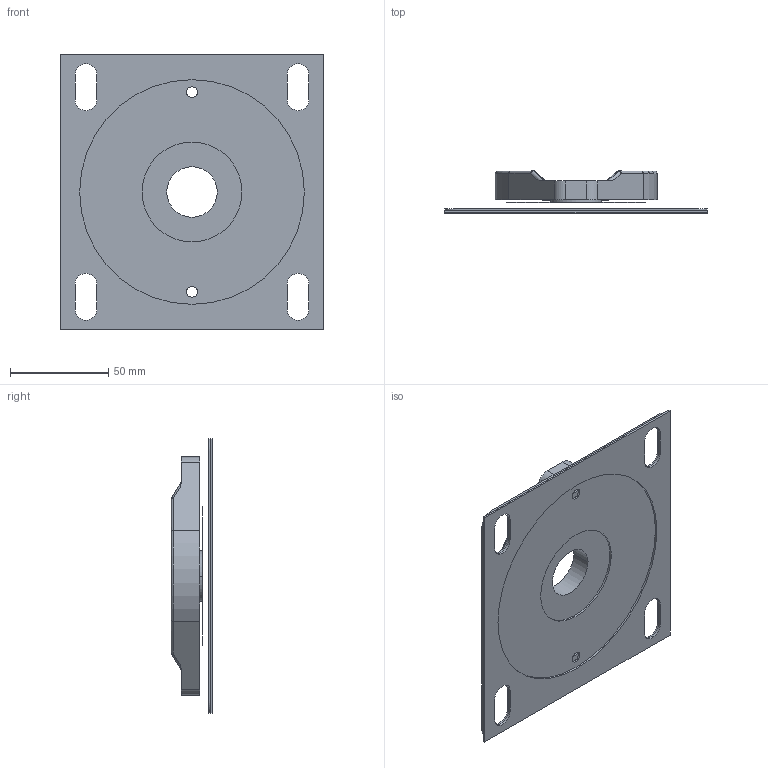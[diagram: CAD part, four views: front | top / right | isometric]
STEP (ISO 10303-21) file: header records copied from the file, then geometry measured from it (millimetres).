
FILE_DESCRIPTION (( 'STEP AP203' ), '1' );
FILE_NAME ('SLF-012P.STEP', '2014-10-29T19:28:10', ( '' ), ( '' ), 'SwSTEP 2.0', 'SolidWorks 2014', '' );
FILE_SCHEMA (( 'CONFIG_CONTROL_DESIGN' ));
Length unit declared in the file: inch
Products named in the file (1): SLF-012P
Bounding box: 133.35 x 21.19 x 139.7 mm (x, y, z)
Surface area: 68797.3 mm2 (no closed solid volume)
Topology: 0 solids, 4 shells, 153 faces, 403 edges, 254 vertices
Faces by surface type: cylinder 80, plane 52, bspline 8, torus 7, sphere 4, cone 2
Entity records: 5056 total; most frequent: CARTESIAN_POINT 1127, DIRECTION 828, ORIENTED_EDGE 794, EDGE_CURVE 399, AXIS2_PLACEMENT_3D 307, VERTEX_POINT 254, LINE 214, VECTOR 214
